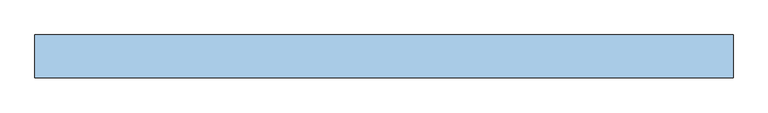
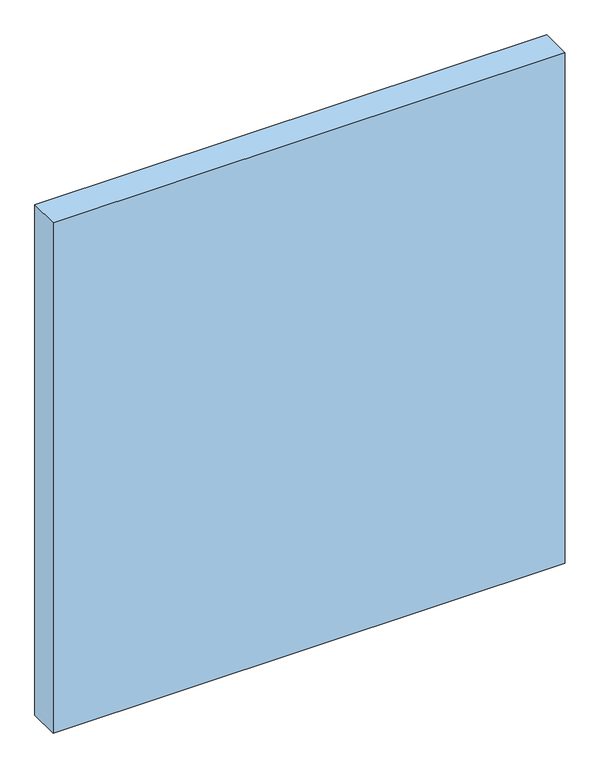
"""IFC4 building model written with IfcOpenShell, lengths in millimetres: window geometry, Dr_Проем-Четверти_окно : ОК."""

from ifc_helpers import new_model, si_unit, frame, origin, place, context, project, spatial, polyline, outline, extrude, source, transform, mapped, element, save


def window_9d8077a9(model_context):
    return source(origin(), model_context, "Body", "SweptSolid", [
        extrude(outline(polyline([(1355.0, -50.0), (-1085.0, -50.0), (-1085.0, 100.0), (1355.0, 100.0), (1355.0, -50.0)])), frame((0.0, 0.0, -60.0), z_axis=(0.0, 0.0, 1.0), x_axis=(1.0, 0.0, 0.0)), (0.0, 0.0, 1.0), 2570.0),
    ])


if __name__ == "__main__":
    model = new_model("IFC4")
    model_context = context("Model", 3, world=origin())
    ifc_project = project(units=[si_unit("LENGTHUNIT", "METRE", prefix="MILLI")], contexts=[model_context])
    site = spatial("IfcSite", under=ifc_project)
    building = spatial("IfcBuilding", under=site)
    placement = place(None, origin())
    window_shape = window_9d8077a9(model_context)
    element("IfcWindow", 1, ObjectType="Dr_Проем-Четверти_окно : ОК", at=placement, inside=building, context=model_context, shape_type="MappedRepresentation", body=[
        mapped(window_shape, transform((0.0, 0.0, 0.0), x_axis=(1.0, 0.0, 0.0), y_axis=(0.0, 1.0, 0.0), z_axis=(0.0, 0.0, 1.0))),
    ])
    save(model, "model.ifc")
